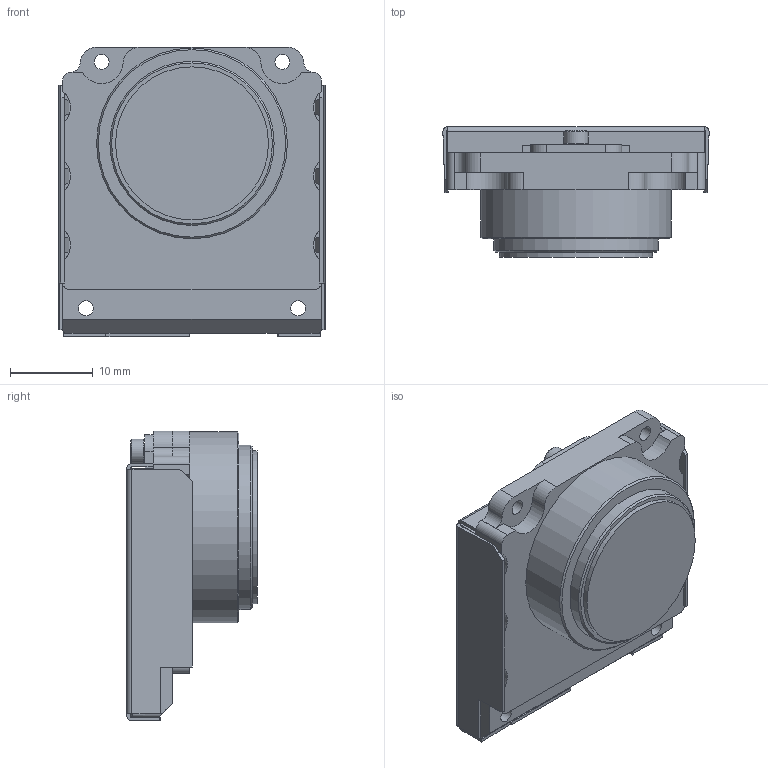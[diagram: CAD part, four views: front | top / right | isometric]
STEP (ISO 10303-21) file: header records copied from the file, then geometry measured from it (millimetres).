
FILE_DESCRIPTION(('STEP AP203'),'1');
FILE_NAME('NIRONE X Solid.stp','2019-12-03T10:03:14',(' '),(' '),'Spatial InterOp 3D',' ',' ');
FILE_SCHEMA(('CONFIG_CONTROL_DESIGN'));
Length unit declared in the file: millimetre
Products named in the file (2): 111-02068 NIRONE Sensor X; =>[0:1:1:172]
Assembly tree (1 placements, depth 2):
  111-02068 NIRONE Sensor X
    =>[0:1:1:172]
Bounding box: 32.1 x 15.71 x 34.9 mm (x, y, z)
Volume: 10201 mm3; surface area: 4570.6 mm2
Topology: 1 solids, 5 shells, 645 faces, 1791 edges, 1185 vertices
Faces by surface type: plane 560, cylinder 78, cone 7
Full cylindrical faces by diameter (mm): 1.8 x4, 2.935 x1, 3.5 x2, 3.8 x2, 18.45 x1, 19.8 x1, 23 x1
Entity records: 20424 total; most frequent: CARTESIAN_POINT 3613, ORIENTED_EDGE 3538, DIRECTION 3245, EDGE_CURVE 1769, LINE 1581, VECTOR 1581, VERTEX_POINT 1179, AXIS2_PLACEMENT_3D 832
